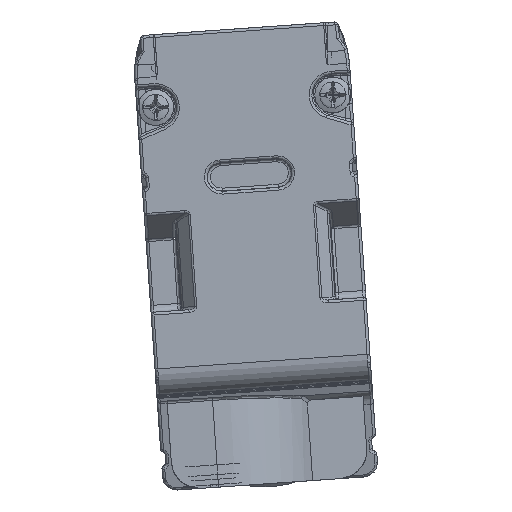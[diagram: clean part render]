
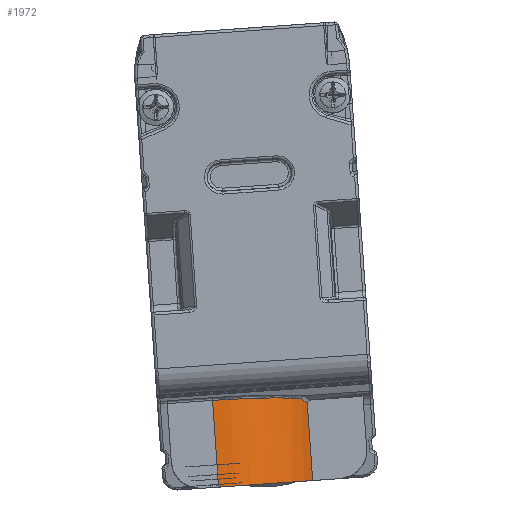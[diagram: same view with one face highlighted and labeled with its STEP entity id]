
A CAD part, front view. The second image highlights one B-rep face of the part: STEP entity #1972.
In plain terms, the highlighted cylindrical face has radius 7.5 mm (diameter 15 mm), a partial arc.
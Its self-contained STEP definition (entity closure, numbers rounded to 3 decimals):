
#1170=ELLIPSE('',#22495,7.53,7.5);
#1420=B_SPLINE_CURVE_WITH_KNOTS('',3,(#36144,#36145,#36146,#36147,#36148,
#36149,#36150),.UNSPECIFIED.,.F.,.F.,(4,3,4),(0.,0.485,1.),.UNSPECIFIED.);
#1972=ADVANCED_FACE('',(#3387),#2813,.T.);
#2813=CYLINDRICAL_SURFACE('',#22497,7.5);
#3387=FACE_OUTER_BOUND('',#4352,.T.);
#4352=EDGE_LOOP('',(#10097,#10098,#10099,#10100,#10101));
#5582=LINE('',#36141,#7231);
#5583=LINE('',#36154,#7232);
#7231=VECTOR('',#26067,1.);
#7232=VECTOR('',#26070,1.);
#10097=ORIENTED_EDGE('',*,*,#17668,.T.);
#10098=ORIENTED_EDGE('',*,*,#17669,.T.);
#10099=ORIENTED_EDGE('',*,*,#17670,.T.);
#10100=ORIENTED_EDGE('',*,*,#17671,.T.);
#10101=ORIENTED_EDGE('',*,*,#17672,.F.);
#14770=VERTEX_POINT('',#36142);
#14771=VERTEX_POINT('',#36143);
#14772=VERTEX_POINT('',#36151);
#14773=VERTEX_POINT('',#36153);
#14774=VERTEX_POINT('',#36155);
#17668=EDGE_CURVE('',#14770,#14771,#5582,.T.);
#17669=EDGE_CURVE('',#14771,#14772,#1420,.T.);
#17670=EDGE_CURVE('',#14772,#14773,#1170,.T.);
#17671=EDGE_CURVE('',#14773,#14774,#5583,.T.);
#17672=EDGE_CURVE('',#14770,#14774,#20610,.T.);
#20610=CIRCLE('',#22496,7.5);
#22495=AXIS2_PLACEMENT_3D('',#36152,#26068,#26069);
#22496=AXIS2_PLACEMENT_3D('',#36156,#26071,#26072);
#22497=AXIS2_PLACEMENT_3D('',#36157,#26073,#26074);
#26067=DIRECTION('',(-0.07,0.,0.998));
#26068=DIRECTION('',(0.069,-0.089,-0.994));
#26069=DIRECTION('',(0.006,0.996,-0.089));
#26070=DIRECTION('',(0.07,0.,-0.998));
#26071=DIRECTION('',(0.07,0.,-0.998));
#26072=DIRECTION('',(0.998,0.,0.07));
#26073=DIRECTION('',(0.07,0.,-0.998));
#26074=DIRECTION('',(0.,-1.,0.));
#36141=CARTESIAN_POINT('',(-40.701,-950.597,14.888));
#36142=CARTESIAN_POINT('',(-40.701,-950.597,14.888));
#36143=CARTESIAN_POINT('',(-41.088,-950.597,20.435));
#36144=CARTESIAN_POINT('',(-41.088,-950.597,20.435));
#36145=CARTESIAN_POINT('',(-41.139,-950.686,20.528));
#36146=CARTESIAN_POINT('',(-41.198,-950.793,20.603));
#36147=CARTESIAN_POINT('',(-41.263,-950.905,20.654));
#36148=CARTESIAN_POINT('',(-41.332,-951.024,20.708));
#36149=CARTESIAN_POINT('',(-41.408,-951.152,20.738));
#36150=CARTESIAN_POINT('',(-41.487,-951.278,20.743));
#36151=CARTESIAN_POINT('',(-41.487,-951.278,20.743));
#36152=CARTESIAN_POINT('',(-47.816,-947.318,19.944));
#36153=CARTESIAN_POINT('',(-47.863,-954.818,20.616));
#36154=CARTESIAN_POINT('',(-47.667,-954.818,17.815));
#36155=CARTESIAN_POINT('',(-47.43,-954.818,14.418));
#36156=CARTESIAN_POINT('',(-47.43,-947.318,14.418));
#36157=CARTESIAN_POINT('',(-52.434,-947.318,85.982));
